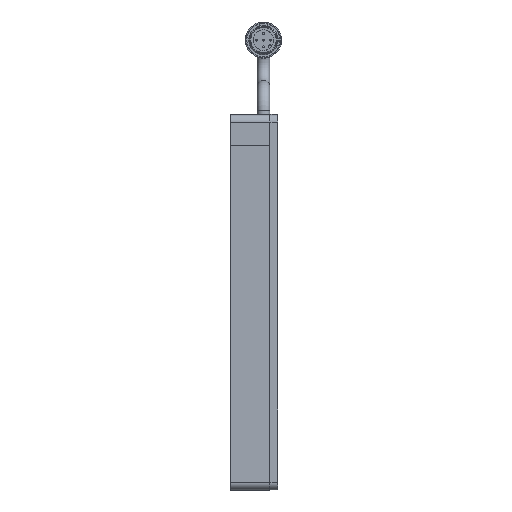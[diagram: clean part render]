
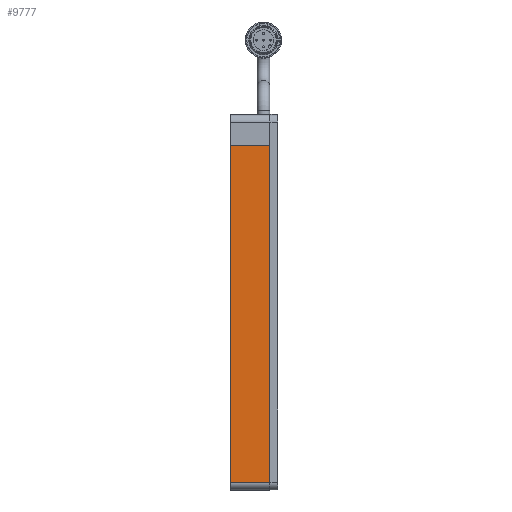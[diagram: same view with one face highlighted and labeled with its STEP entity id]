
A CAD part, left-side view. The second image highlights one B-rep face of the part: STEP entity #9777.
In plain terms, the highlighted planar face has unit normal (-1, 0, 0) as drawn and (0, 0, -1) by its records, which use the part's own axes.
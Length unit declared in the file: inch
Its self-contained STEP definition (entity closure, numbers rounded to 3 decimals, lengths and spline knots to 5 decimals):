
#35 = VECTOR ( 'NONE', #13700, 39.37008 ) ;
#598 = LINE ( 'NONE', #1537, #8174 ) ;
#1537 = CARTESIAN_POINT ( 'NONE',  ( -3., -0.3125, -0.25 ) ) ;
#1765 = DIRECTION ( 'NONE',  ( -1., 0., 0. ) ) ;
#2065 = VECTOR ( 'NONE', #6357, 39.37008 ) ;
#2188 = VERTEX_POINT ( 'NONE', #6323 ) ;
#2447 = EDGE_CURVE ( 'NONE', #14030, #7860, #8163, .T. ) ;
#2883 = DIRECTION ( 'NONE',  ( 0., -1., 0. ) ) ;
#4110 = CARTESIAN_POINT ( 'NONE',  ( -2.5, -0.3125, -0.25 ) ) ;
#4180 = CARTESIAN_POINT ( 'NONE',  ( -3., 0.3125, -0.25 ) ) ;
#4315 = EDGE_CURVE ( 'NONE', #7860, #2188, #598, .T. ) ;
#5183 = LINE ( 'NONE', #4110, #35 ) ;
#6323 = CARTESIAN_POINT ( 'NONE',  ( -2.5, -0.3125, -0.25 ) ) ;
#6357 = DIRECTION ( 'NONE',  ( -1., 0., 0. ) ) ;
#6473 = AXIS2_PLACEMENT_3D ( 'NONE', #4180, #13996, #8241 ) ;
#6959 = CARTESIAN_POINT ( 'NONE',  ( 2.875, 0.3125, -0.25 ) ) ;
#7239 = FACE_OUTER_BOUND ( 'NONE', #12840, .T. ) ;
#7444 = LINE ( 'NONE', #11919, #2065 ) ;
#7461 = ORIENTED_EDGE ( 'NONE', *, *, #8000, .T. ) ;
#7860 = VERTEX_POINT ( 'NONE', #12168 ) ;
#7877 = VECTOR ( 'NONE', #2883, 39.37008 ) ;
#8000 = EDGE_CURVE ( 'NONE', #2188, #13061, #5183, .T. ) ;
#8163 = LINE ( 'NONE', #8459, #7877 ) ;
#8174 = VECTOR ( 'NONE', #1765, 39.37008 ) ;
#8241 = DIRECTION ( 'NONE',  ( 1., 0., 0. ) ) ;
#8459 = CARTESIAN_POINT ( 'NONE',  ( 2.875, 0.3125, -0.25 ) ) ;
#8675 = CARTESIAN_POINT ( 'NONE',  ( -2.5, 0.3125, -0.25 ) ) ;
#9581 = ORIENTED_EDGE ( 'NONE', *, *, #12029, .F. ) ;
#9777 = ADVANCED_FACE ( 'NONE', ( #7239 ), #12711, .F. ) ;
#10236 = ORIENTED_EDGE ( 'NONE', *, *, #4315, .T. ) ;
#11919 = CARTESIAN_POINT ( 'NONE',  ( -3., 0.3125, -0.25 ) ) ;
#12029 = EDGE_CURVE ( 'NONE', #14030, #13061, #7444, .T. ) ;
#12168 = CARTESIAN_POINT ( 'NONE',  ( 2.875, -0.3125, -0.25 ) ) ;
#12711 = PLANE ( 'NONE',  #6473 ) ;
#12840 = EDGE_LOOP ( 'NONE', ( #9581, #13736, #10236, #7461 ) ) ;
#13061 = VERTEX_POINT ( 'NONE', #8675 ) ;
#13700 = DIRECTION ( 'NONE',  ( 0., 1., 0. ) ) ;
#13736 = ORIENTED_EDGE ( 'NONE', *, *, #2447, .T. ) ;
#13996 = DIRECTION ( 'NONE',  ( 0., 0., 1. ) ) ;
#14030 = VERTEX_POINT ( 'NONE', #6959 ) ;
